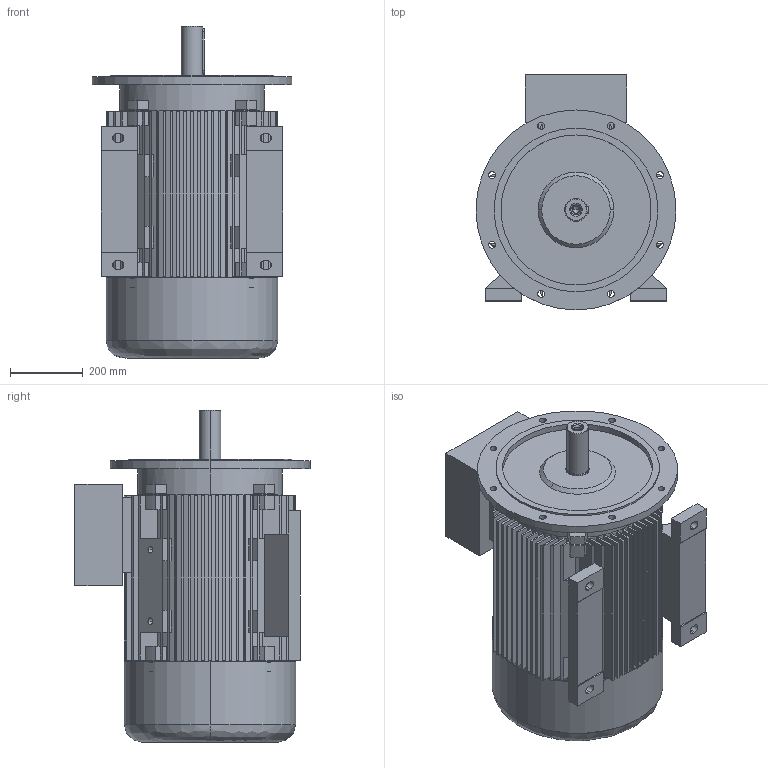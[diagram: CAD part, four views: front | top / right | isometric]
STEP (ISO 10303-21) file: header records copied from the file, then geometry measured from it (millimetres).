
FILE_DESCRIPTION (( 'STEP AP203' ), '1' );
FILE_NAME ('20.18374_C 7AZ 250M -2 B35 STANDK.STEP', '2018-05-17T13:13:32', ( '' ), ( '' ), 'SwSTEP 2.0', 'SolidWorks 2017', '' );
FILE_SCHEMA (( 'CONFIG_CONTROL_DESIGN' ));
Length unit declared in the file: millimetre
Products named in the file (1): 20.18374_C 7AZ 250M -2 B35 STANDK
Bounding box: 550 x 649 x 913 mm (x, y, z)
Volume: 50408068.9 mm3; surface area: 6546140.1 mm2
Topology: 16 solids, 16 shells, 857 faces, 2273 edges, 1493 vertices
Faces by surface type: plane 670, cylinder 140, cone 34, bspline 13
Entity records: 27213 total; most frequent: CARTESIAN_POINT 5499, ORIENTED_EDGE 4510, DIRECTION 4435, EDGE_CURVE 2255, VECTOR 1697, LINE 1697, VERTEX_POINT 1493, AXIS2_PLACEMENT_3D 1369
